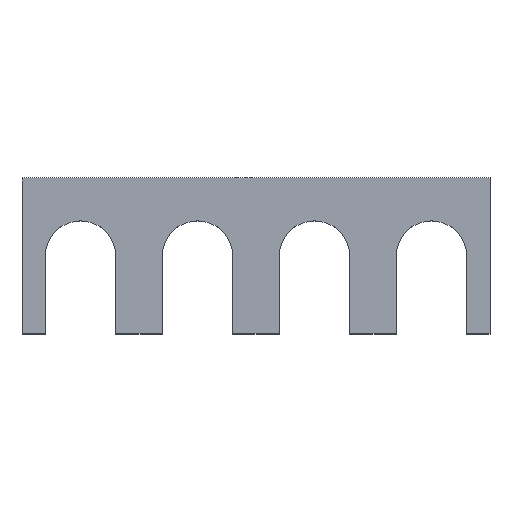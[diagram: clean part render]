
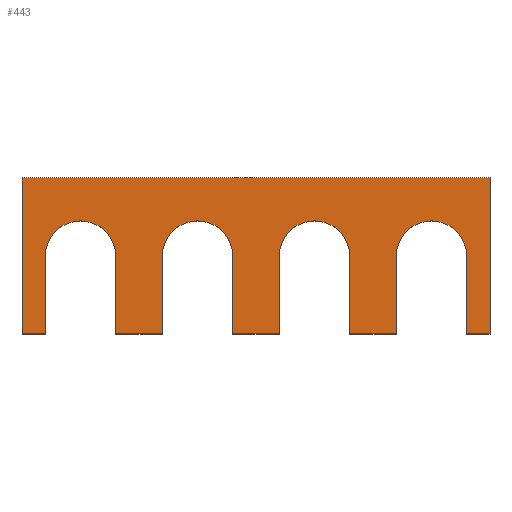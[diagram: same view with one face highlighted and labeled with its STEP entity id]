
A CAD part, top view. The second image highlights one B-rep face of the part: STEP entity #443.
In plain terms, the highlighted planar face has unit normal (0, 0, 1).
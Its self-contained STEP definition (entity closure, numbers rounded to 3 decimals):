
#57=CARTESIAN_POINT('Axis2P3D Location',(-7.5,0.,2.)) ;
#61=CARTESIAN_POINT('Vertex',(-3.,0.,2.)) ;
#63=CARTESIAN_POINT('Vertex',(-12.,0.,2.)) ;
#97=CARTESIAN_POINT('Line Origine',(-3.,-5.,2.)) ;
#101=CARTESIAN_POINT('Vertex',(-3.,-10.,2.)) ;
#280=CARTESIAN_POINT('Line Origine',(-12.,-5.,2.)) ;
#284=CARTESIAN_POINT('Vertex',(-12.,-10.,2.)) ;
#299=CARTESIAN_POINT('Axis2P3D Location',(0.,0.,2.)) ;
#304=CARTESIAN_POINT('Line Origine',(28.5,-10.,2.)) ;
#308=CARTESIAN_POINT('Vertex',(27.,-10.,2.)) ;
#310=CARTESIAN_POINT('Vertex',(30.,-10.,2.)) ;
#313=CARTESIAN_POINT('Line Origine',(30.,0.,2.)) ;
#317=CARTESIAN_POINT('Vertex',(30.,10.,2.)) ;
#320=CARTESIAN_POINT('Line Origine',(0.,10.,2.)) ;
#324=CARTESIAN_POINT('Vertex',(-30.,10.,2.)) ;
#327=CARTESIAN_POINT('Line Origine',(-30.,0.,2.)) ;
#331=CARTESIAN_POINT('Vertex',(-30.,-10.,2.)) ;
#334=CARTESIAN_POINT('Line Origine',(-28.5,-10.,2.)) ;
#338=CARTESIAN_POINT('Vertex',(-27.,-10.,2.)) ;
#341=CARTESIAN_POINT('Line Origine',(-27.,-5.,2.)) ;
#345=CARTESIAN_POINT('Vertex',(-27.,0.,2.)) ;
#348=CARTESIAN_POINT('Axis2P3D Location',(-22.5,0.,2.)) ;
#352=CARTESIAN_POINT('Vertex',(-18.,0.,2.)) ;
#355=CARTESIAN_POINT('Line Origine',(-18.,-5.,2.)) ;
#359=CARTESIAN_POINT('Vertex',(-18.,-10.,2.)) ;
#362=CARTESIAN_POINT('Line Origine',(-15.,-10.,2.)) ;
#367=CARTESIAN_POINT('Line Origine',(0.,-10.,2.)) ;
#371=CARTESIAN_POINT('Vertex',(3.,-10.,2.)) ;
#374=CARTESIAN_POINT('Line Origine',(3.,-5.,2.)) ;
#378=CARTESIAN_POINT('Vertex',(3.,0.,2.)) ;
#381=CARTESIAN_POINT('Axis2P3D Location',(7.5,0.,2.)) ;
#385=CARTESIAN_POINT('Vertex',(12.,0.,2.)) ;
#388=CARTESIAN_POINT('Line Origine',(12.,-5.,2.)) ;
#392=CARTESIAN_POINT('Vertex',(12.,-10.,2.)) ;
#395=CARTESIAN_POINT('Line Origine',(15.,-10.,2.)) ;
#399=CARTESIAN_POINT('Vertex',(18.,-10.,2.)) ;
#402=CARTESIAN_POINT('Line Origine',(18.,-5.,2.)) ;
#406=CARTESIAN_POINT('Vertex',(18.,0.,2.)) ;
#409=CARTESIAN_POINT('Axis2P3D Location',(22.5,0.,2.)) ;
#413=CARTESIAN_POINT('Vertex',(27.,0.,2.)) ;
#416=CARTESIAN_POINT('Line Origine',(27.,-5.,2.)) ;
#58=DIRECTION('Axis2P3D Direction',(0.,0.,-1.)) ;
#98=DIRECTION('Vector Direction',(0.,1.,0.)) ;
#281=DIRECTION('Vector Direction',(0.,1.,0.)) ;
#300=DIRECTION('Axis2P3D Direction',(0.,0.,1.)) ;
#301=DIRECTION('Axis2P3D XDirection',(1.,0.,0.)) ;
#305=DIRECTION('Vector Direction',(-1.,0.,0.)) ;
#314=DIRECTION('Vector Direction',(0.,1.,0.)) ;
#321=DIRECTION('Vector Direction',(1.,0.,0.)) ;
#328=DIRECTION('Vector Direction',(0.,-1.,0.)) ;
#335=DIRECTION('Vector Direction',(-1.,0.,0.)) ;
#342=DIRECTION('Vector Direction',(0.,1.,0.)) ;
#349=DIRECTION('Axis2P3D Direction',(0.,0.,1.)) ;
#356=DIRECTION('Vector Direction',(0.,1.,0.)) ;
#363=DIRECTION('Vector Direction',(-1.,0.,0.)) ;
#368=DIRECTION('Vector Direction',(-1.,0.,0.)) ;
#375=DIRECTION('Vector Direction',(0.,1.,0.)) ;
#382=DIRECTION('Axis2P3D Direction',(0.,0.,1.)) ;
#389=DIRECTION('Vector Direction',(0.,1.,0.)) ;
#396=DIRECTION('Vector Direction',(-1.,0.,0.)) ;
#403=DIRECTION('Vector Direction',(0.,1.,0.)) ;
#410=DIRECTION('Axis2P3D Direction',(0.,0.,1.)) ;
#417=DIRECTION('Vector Direction',(0.,1.,0.)) ;
#59=AXIS2_PLACEMENT_3D('Circle Axis2P3D',#57,#58,$) ;
#302=AXIS2_PLACEMENT_3D('Plane Axis2P3D',#299,#300,#301) ;
#350=AXIS2_PLACEMENT_3D('Circle Axis2P3D',#348,#349,$) ;
#383=AXIS2_PLACEMENT_3D('Circle Axis2P3D',#381,#382,$) ;
#411=AXIS2_PLACEMENT_3D('Circle Axis2P3D',#409,#410,$) ;
#422=ORIENTED_EDGE('',*,*,#312,.T.) ;
#423=ORIENTED_EDGE('',*,*,#319,.T.) ;
#424=ORIENTED_EDGE('',*,*,#326,.T.) ;
#425=ORIENTED_EDGE('',*,*,#333,.T.) ;
#426=ORIENTED_EDGE('',*,*,#340,.T.) ;
#427=ORIENTED_EDGE('',*,*,#347,.T.) ;
#428=ORIENTED_EDGE('',*,*,#354,.F.) ;
#429=ORIENTED_EDGE('',*,*,#361,.F.) ;
#430=ORIENTED_EDGE('',*,*,#366,.T.) ;
#431=ORIENTED_EDGE('',*,*,#286,.T.) ;
#432=ORIENTED_EDGE('',*,*,#65,.F.) ;
#433=ORIENTED_EDGE('',*,*,#103,.F.) ;
#434=ORIENTED_EDGE('',*,*,#373,.T.) ;
#435=ORIENTED_EDGE('',*,*,#380,.T.) ;
#436=ORIENTED_EDGE('',*,*,#387,.F.) ;
#437=ORIENTED_EDGE('',*,*,#394,.F.) ;
#438=ORIENTED_EDGE('',*,*,#401,.T.) ;
#439=ORIENTED_EDGE('',*,*,#408,.T.) ;
#440=ORIENTED_EDGE('',*,*,#415,.F.) ;
#441=ORIENTED_EDGE('',*,*,#420,.F.) ;
#99=VECTOR('Line Direction',#98,1.) ;
#282=VECTOR('Line Direction',#281,1.) ;
#306=VECTOR('Line Direction',#305,1.) ;
#315=VECTOR('Line Direction',#314,1.) ;
#322=VECTOR('Line Direction',#321,1.) ;
#329=VECTOR('Line Direction',#328,1.) ;
#336=VECTOR('Line Direction',#335,1.) ;
#343=VECTOR('Line Direction',#342,1.) ;
#357=VECTOR('Line Direction',#356,1.) ;
#364=VECTOR('Line Direction',#363,1.) ;
#369=VECTOR('Line Direction',#368,1.) ;
#376=VECTOR('Line Direction',#375,1.) ;
#390=VECTOR('Line Direction',#389,1.) ;
#397=VECTOR('Line Direction',#396,1.) ;
#404=VECTOR('Line Direction',#403,1.) ;
#418=VECTOR('Line Direction',#417,1.) ;
#443=ADVANCED_FACE('PartBody',(#442),#303,.T.) ;
#60=CIRCLE('generated circle',#59,4.5) ;
#351=CIRCLE('generated circle',#350,4.5) ;
#384=CIRCLE('generated circle',#383,4.5) ;
#412=CIRCLE('generated circle',#411,4.5) ;
#65=EDGE_CURVE('',#62,#64,#60,.F.) ;
#103=EDGE_CURVE('',#102,#62,#100,.T.) ;
#286=EDGE_CURVE('',#285,#64,#283,.T.) ;
#312=EDGE_CURVE('',#309,#311,#307,.F.) ;
#319=EDGE_CURVE('',#311,#318,#316,.T.) ;
#326=EDGE_CURVE('',#318,#325,#323,.F.) ;
#333=EDGE_CURVE('',#325,#332,#330,.T.) ;
#340=EDGE_CURVE('',#332,#339,#337,.F.) ;
#347=EDGE_CURVE('',#339,#346,#344,.T.) ;
#354=EDGE_CURVE('',#353,#346,#351,.T.) ;
#361=EDGE_CURVE('',#360,#353,#358,.T.) ;
#366=EDGE_CURVE('',#360,#285,#365,.F.) ;
#373=EDGE_CURVE('',#102,#372,#370,.F.) ;
#380=EDGE_CURVE('',#372,#379,#377,.T.) ;
#387=EDGE_CURVE('',#386,#379,#384,.T.) ;
#394=EDGE_CURVE('',#393,#386,#391,.T.) ;
#401=EDGE_CURVE('',#393,#400,#398,.F.) ;
#408=EDGE_CURVE('',#400,#407,#405,.T.) ;
#415=EDGE_CURVE('',#414,#407,#412,.T.) ;
#420=EDGE_CURVE('',#309,#414,#419,.T.) ;
#421=EDGE_LOOP('',(#422,#423,#424,#425,#426,#427,#428,#429,#430,#431,#432,#433,#434,#435,#436,#437,#438,#439,#440,#441)) ;
#442=FACE_OUTER_BOUND('',#421,.T.) ;
#100=LINE('Line',#97,#99) ;
#283=LINE('Line',#280,#282) ;
#307=LINE('Line',#304,#306) ;
#316=LINE('Line',#313,#315) ;
#323=LINE('Line',#320,#322) ;
#330=LINE('Line',#327,#329) ;
#337=LINE('Line',#334,#336) ;
#344=LINE('Line',#341,#343) ;
#358=LINE('Line',#355,#357) ;
#365=LINE('Line',#362,#364) ;
#370=LINE('Line',#367,#369) ;
#377=LINE('Line',#374,#376) ;
#391=LINE('Line',#388,#390) ;
#398=LINE('Line',#395,#397) ;
#405=LINE('Line',#402,#404) ;
#419=LINE('Line',#416,#418) ;
#303=PLANE('Plane',#302) ;
#62=VERTEX_POINT('',#61) ;
#64=VERTEX_POINT('',#63) ;
#102=VERTEX_POINT('',#101) ;
#285=VERTEX_POINT('',#284) ;
#309=VERTEX_POINT('',#308) ;
#311=VERTEX_POINT('',#310) ;
#318=VERTEX_POINT('',#317) ;
#325=VERTEX_POINT('',#324) ;
#332=VERTEX_POINT('',#331) ;
#339=VERTEX_POINT('',#338) ;
#346=VERTEX_POINT('',#345) ;
#353=VERTEX_POINT('',#352) ;
#360=VERTEX_POINT('',#359) ;
#372=VERTEX_POINT('',#371) ;
#379=VERTEX_POINT('',#378) ;
#386=VERTEX_POINT('',#385) ;
#393=VERTEX_POINT('',#392) ;
#400=VERTEX_POINT('',#399) ;
#407=VERTEX_POINT('',#406) ;
#414=VERTEX_POINT('',#413) ;
